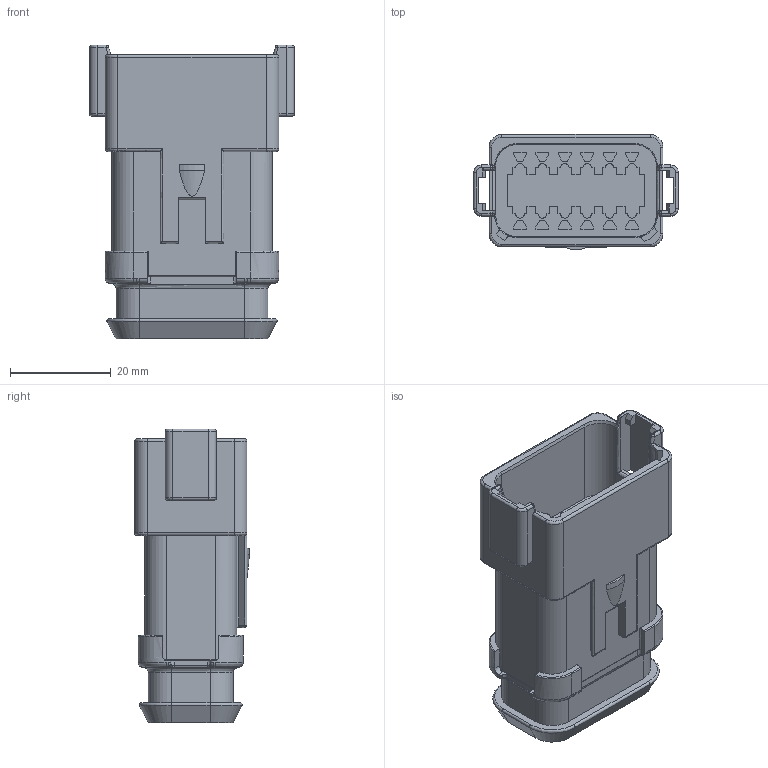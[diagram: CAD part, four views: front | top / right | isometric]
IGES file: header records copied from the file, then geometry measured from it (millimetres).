
Start section:  PTC IGES file: c-dt04-12pa-e008-99-3d.igs
Global section: file name: c-dt04-12pa-e008-99-3d.igs; native system: Pro/ENGINEER by Parametric Technology Corporation; preprocessor: 2011490; author: workeradm; organization: Unknown; units: millimetre
Bounding box: 40.56 x 22.76 x 58.19 mm (x, y, z)
Surface area: 11951.4 mm2 (no closed solid volume)
Topology: 0 solids, 0 shells, 741 faces, 3828 edges, 3828 vertices
Faces by surface type: bspline 431, revolution 310
